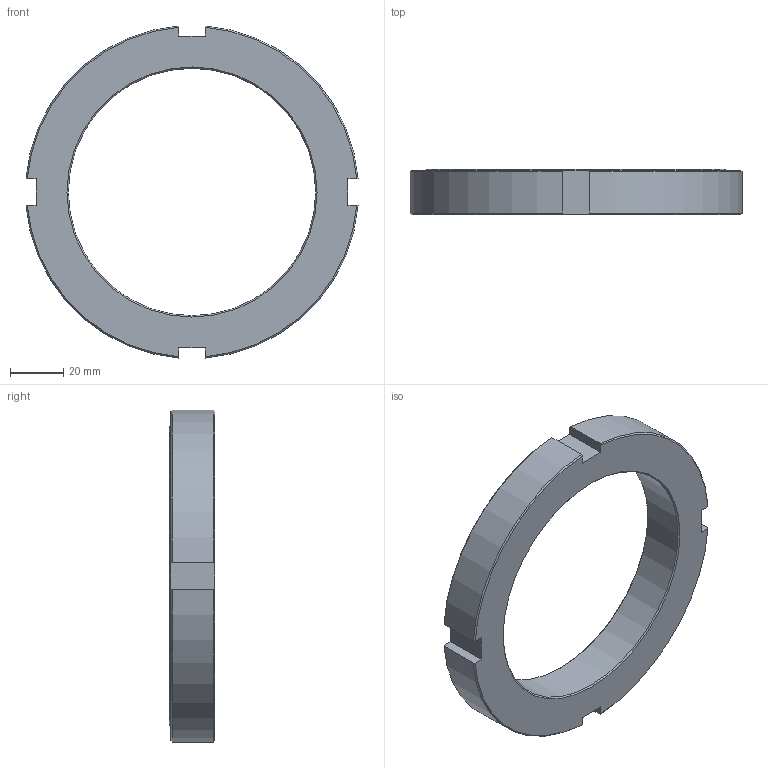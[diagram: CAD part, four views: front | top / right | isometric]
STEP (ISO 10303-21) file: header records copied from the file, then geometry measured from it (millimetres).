
FILE_DESCRIPTION(/* description */ (''),/* implementation_level */ '2;1');
FILE_NAME(/* name */ 'C:\Users\Jefferson\Desktop\Biblioteca Pro Nitro 2024\Flanges\PNB-24-XXX\PNB-24-M95.stp',/* time_stamp */ '2024-01-29T15:58:30-03:00',/* author */ ('Jefferson'),/* organization */ (''),/* preprocessor_version */ 'ST-DEVELOPER v18.1',/* originating_system */ 'Autodesk Inventor 2021',/* authorisation */ '');
FILE_SCHEMA (('AUTOMOTIVE_DESIGN { 1 0 10303 214 3 1 1 }'));
Length unit declared in the file: millimetre
Products named in the file (1): PNB-24-M95
Bounding box: 124.6 x 17 x 124.6 mm (x, y, z)
Volume: 89624.5 mm3; surface area: 22341 mm2
Topology: 1 solids, 1 shells, 189 faces, 512 edges, 341 vertices
Faces by surface type: plane 108, bspline 65, cone 11, cylinder 5
Full cylindrical faces by diameter (mm): 92.835 x1
Entity records: 6260 total; most frequent: CARTESIAN_POINT 1920, ORIENTED_EDGE 1024, DIRECTION 639, EDGE_CURVE 512, LINE 343, VECTOR 343, VERTEX_POINT 341, EDGE_LOOP 207
